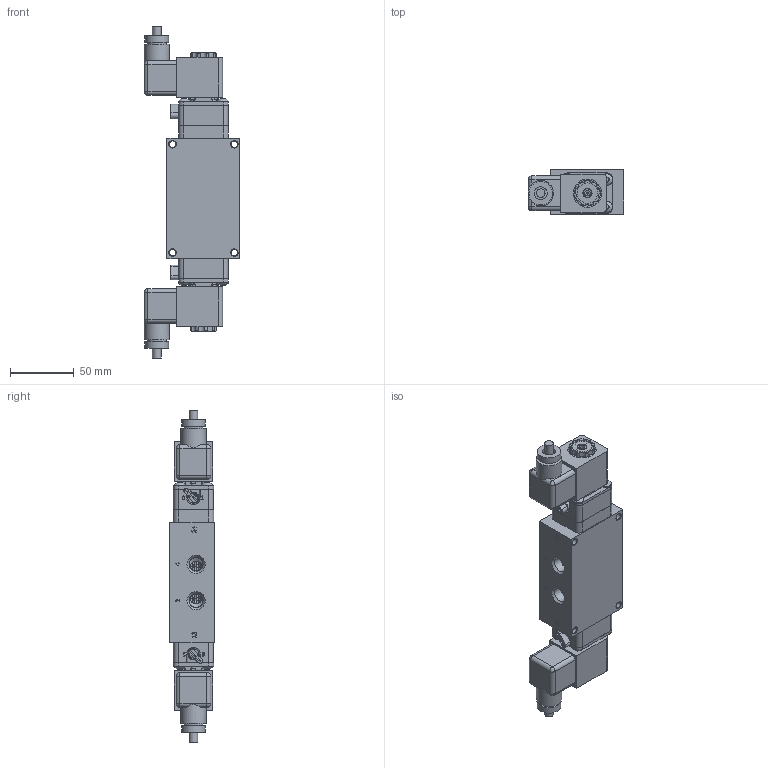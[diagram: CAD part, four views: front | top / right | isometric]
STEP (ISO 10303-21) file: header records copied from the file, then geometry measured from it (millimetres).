
FILE_DESCRIPTION(/* description */ (''),/* implementation_level */ '2;1');
FILE_NAME(/* name */ 'D:\Website Files\stp\Valves\Standard\ESY\ZESY2TO.stp',/* time_stamp */ '2016-02-07T09:06:46-05:00',/* author */ ('RMcKenna'),/* organization */ (''),/* preprocessor_version */ 'ST-DEVELOPER v15.6',/* originating_system */ 'Autodesk Inventor 2015',/* authorisation */ '');
FILE_SCHEMA (('AUTOMOTIVE_DESIGN { 1 0 10303 214 3 1 1 }'));
Products named in the file (1): Part13
Bounding box: 75.06 x 34.92 x 260.17 mm (x, y, z)
Volume: 318379.7 mm3; surface area: 101752.2 mm2
Topology: 4 solids, 37 shells, 2156 faces, 5246 edges, 3335 vertices
Faces by surface type: plane 1007, cylinder 606, cone 284, torus 147, bspline 96, sphere 16
Full cylindrical faces by diameter (mm): 1.3 x2, 1.397 x2, 1.5 x4, 2.007 x4, 2.032 x16, 2.35 x8, 2.388 x1, 2.5 x2, 2.8 x2, 3 x8, 3.048 x1, 3.175 x2, 3.4 x2, 3.683 x11, 4.191 x4, 4.305 x2, 4.394 x1, 4.826 x8, 5.105 x4, 5.15 x8, 5.156 x16, 5.5 x2, 6.65 x2, 6.731 x2, 6.9 x2, 7.188 x2, 7.75 x2, 7.9 x2, 8 x4, 8.001 x2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
Entity records: 66303 total; most frequent: CARTESIAN_POINT 15541, DIRECTION 10159, ORIENTED_EDGE 9510, EDGE_CURVE 4751, AXIS2_PLACEMENT_3D 3901, VERTEX_POINT 3184, EDGE_LOOP 2749, LINE 2357
